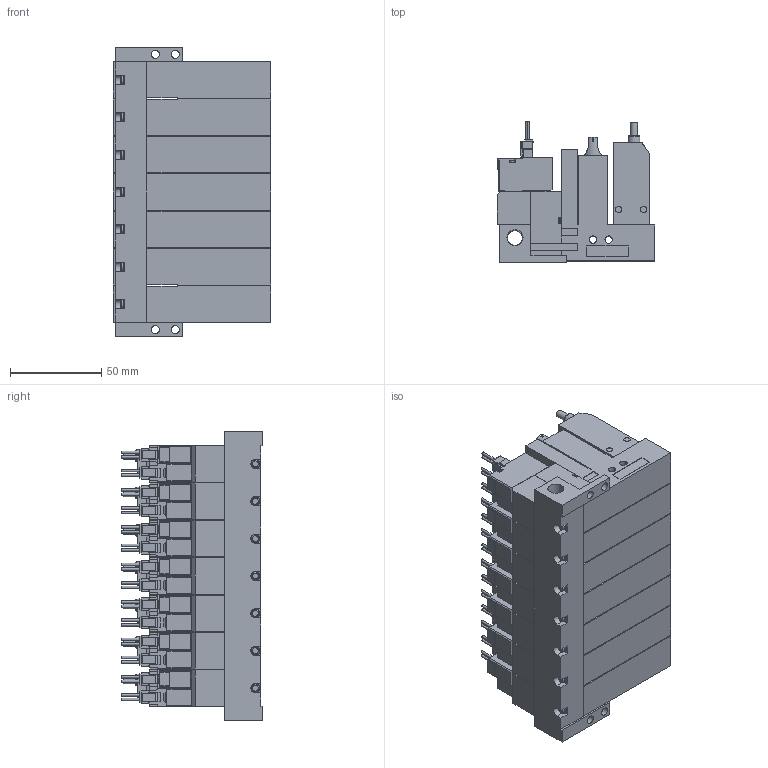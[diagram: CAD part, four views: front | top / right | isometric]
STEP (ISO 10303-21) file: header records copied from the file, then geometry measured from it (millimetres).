
FILE_DESCRIPTION(('STEP AP203'),'1');
FILE_NAME('ABS_ABPL5ALR707.stp','2025-02-25T02:14:47',(' '),(' '),'Spatial InterOp 3D',' ',' ');
FILE_SCHEMA(('CONFIG_CONTROL_DESIGN'));
Length unit declared in the file: millimetre
Products named in the file (5): BMC22M※※※※ABS_ABPL5ALR707; Solenoid valve A; Pressure sensor ABSL; Unit L; Base MR70R
Assembly tree (22 placements, depth 2):
  BMC22M※※※※ABS_ABPL5ALR707
    Solenoid valve A  x7
    Pressure sensor ABSL  x7
    Unit L  x7
    Base MR70R
Bounding box: 86.6 x 77.45 x 159 mm (x, y, z)
Volume: 629244.5 mm3; surface area: 173717 mm2
Topology: 22 solids, 22 shells, 2646 faces, 7087 edges, 4667 vertices
Faces by surface type: plane 2240, cylinder 327, cone 51, torus 28
Full cylindrical faces by diameter (mm): 1.4 x28, 2.5 x7, 3 x28, 3.5 x42, 3.6 x7, 4 x21, 4.134 x7, 4.5 x4, 5.2 x7, 6 x7, 6.5 x7, 6.6 x7, 8.279 x1
Entity records: 15201 total; most frequent: CARTESIAN_POINT 2921, DIRECTION 2432, ORIENTED_EDGE 2342, EDGE_CURVE 1171, LINE 930, VECTOR 930, VERTEX_POINT 825, AXIS2_PLACEMENT_3D 751
